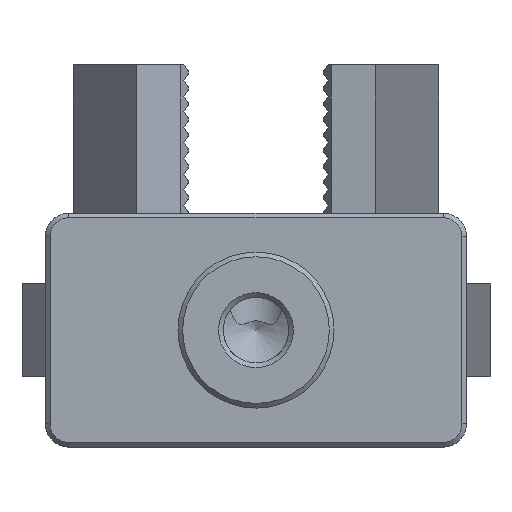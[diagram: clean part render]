
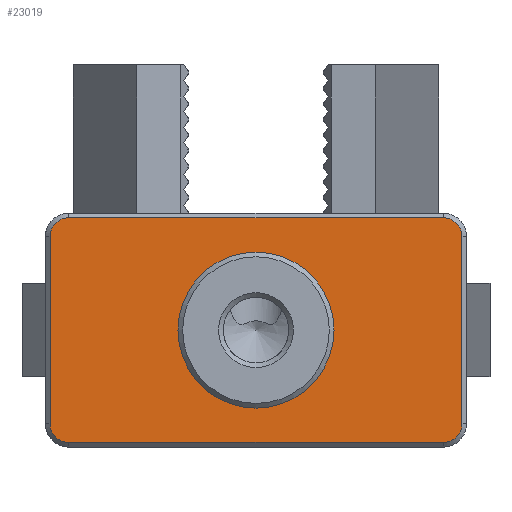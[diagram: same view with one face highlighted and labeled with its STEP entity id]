
A CAD part, front view. The second image highlights one B-rep face of the part: STEP entity #23019.
In plain terms, the highlighted planar face has unit normal (0, -1, 0).
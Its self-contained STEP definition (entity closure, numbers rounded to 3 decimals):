
#22692=FACE_BOUND('',#32544,.T.);
#22693=FACE_BOUND('',#32545,.T.);
#23019=ADVANCED_FACE('',(#22692,#22693),#26191,.T.);
#26191=PLANE('',#89257);
#32544=EDGE_LOOP('',(#54606));
#32545=EDGE_LOOP('',(#54607,#54608,#54609,#54610,#54611,#54612,#54613,#54614));
#35828=LINE('',#109345,#45048);
#35832=LINE('',#109357,#45052);
#35834=LINE('',#109365,#45054);
#35849=LINE('',#109511,#45069);
#45048=VECTOR('',#92918,1.);
#45052=VECTOR('',#92930,1.);
#45054=VECTOR('',#92938,1.);
#45069=VECTOR('',#93014,1.);
#54606=ORIENTED_EDGE('',*,*,#79621,.T.);
#54607=ORIENTED_EDGE('',*,*,#79655,.T.);
#54608=ORIENTED_EDGE('',*,*,#79620,.T.);
#54609=ORIENTED_EDGE('',*,*,#79611,.T.);
#54610=ORIENTED_EDGE('',*,*,#79614,.T.);
#54611=ORIENTED_EDGE('',*,*,#79616,.T.);
#54612=ORIENTED_EDGE('',*,*,#79623,.T.);
#54613=ORIENTED_EDGE('',*,*,#79658,.F.);
#54614=ORIENTED_EDGE('',*,*,#79659,.T.);
#73241=VERTEX_POINT('',#109338);
#73242=VERTEX_POINT('',#109340);
#73243=VERTEX_POINT('',#109344);
#73245=VERTEX_POINT('',#109349);
#73247=VERTEX_POINT('',#109355);
#73248=VERTEX_POINT('',#109360);
#73249=VERTEX_POINT('',#109363);
#73266=VERTEX_POINT('',#109504);
#73268=VERTEX_POINT('',#109510);
#79611=EDGE_CURVE('',#73242,#73241,#88947,.T.);
#79614=EDGE_CURVE('',#73241,#73243,#35828,.T.);
#79616=EDGE_CURVE('',#73243,#73245,#88948,.T.);
#79620=EDGE_CURVE('',#73247,#73242,#35832,.T.);
#79621=EDGE_CURVE('',#73248,#73248,#88950,.T.);
#79623=EDGE_CURVE('',#73245,#73249,#35834,.T.);
#79655=EDGE_CURVE('',#73266,#73247,#88965,.T.);
#79658=EDGE_CURVE('',#73268,#73249,#88967,.T.);
#79659=EDGE_CURVE('',#73268,#73266,#35849,.T.);
#88947=CIRCLE('',#89218,1.2);
#88948=CIRCLE('',#89221,1.2);
#88950=CIRCLE('',#89225,5.);
#88965=CIRCLE('',#89253,1.2);
#88967=CIRCLE('',#89256,1.2);
#89218=AXIS2_PLACEMENT_3D('',#109339,#92912,#92913);
#89221=AXIS2_PLACEMENT_3D('',#109350,#92922,#92923);
#89225=AXIS2_PLACEMENT_3D('',#109359,#92933,#92934);
#89253=AXIS2_PLACEMENT_3D('',#109503,#93005,#93006);
#89256=AXIS2_PLACEMENT_3D('',#109509,#93012,#93013);
#89257=AXIS2_PLACEMENT_3D('',#109512,#93015,#93016);
#92912=DIRECTION('',(0.,-1.,0.));
#92913=DIRECTION('',(0.,0.,1.));
#92918=DIRECTION('',(-1.,0.,0.));
#92922=DIRECTION('',(0.,-1.,0.));
#92923=DIRECTION('',(0.,0.,1.));
#92930=DIRECTION('',(0.,0.,1.));
#92933=DIRECTION('',(0.,1.,0.));
#92934=DIRECTION('',(0.,0.,-1.));
#92938=DIRECTION('',(0.,0.,-1.));
#93005=DIRECTION('',(0.,-1.,0.));
#93006=DIRECTION('',(0.,0.,1.));
#93012=DIRECTION('',(0.,1.,0.));
#93013=DIRECTION('',(0.,0.,1.));
#93014=DIRECTION('',(1.,0.,0.));
#93015=DIRECTION('',(0.,-1.,0.));
#93016=DIRECTION('',(0.,0.,-1.));
#109338=CARTESIAN_POINT('',(12.,-12.,-0.3));
#109339=CARTESIAN_POINT('',(12.,-12.,-1.5));
#109340=CARTESIAN_POINT('',(13.2,-12.,-1.5));
#109344=CARTESIAN_POINT('',(-12.,-12.,-0.3));
#109345=CARTESIAN_POINT('',(12.5,-12.,-0.3));
#109349=CARTESIAN_POINT('',(-13.2,-12.,-1.5));
#109350=CARTESIAN_POINT('',(-12.,-12.,-1.5));
#109355=CARTESIAN_POINT('',(13.2,-12.,-13.5));
#109357=CARTESIAN_POINT('',(13.2,-12.,0.));
#109359=CARTESIAN_POINT('',(0.,-12.,-7.5));
#109360=CARTESIAN_POINT('',(0.,-12.,-12.5));
#109363=CARTESIAN_POINT('',(-13.2,-12.,-13.5));
#109365=CARTESIAN_POINT('',(-13.2,-12.,0.));
#109503=CARTESIAN_POINT('',(12.,-12.,-13.5));
#109504=CARTESIAN_POINT('',(12.,-12.,-14.7));
#109509=CARTESIAN_POINT('',(-12.,-12.,-13.5));
#109510=CARTESIAN_POINT('',(-12.,-12.,-14.7));
#109511=CARTESIAN_POINT('',(12.5,-12.,-14.7));
#109512=CARTESIAN_POINT('',(12.5,-12.,0.));
